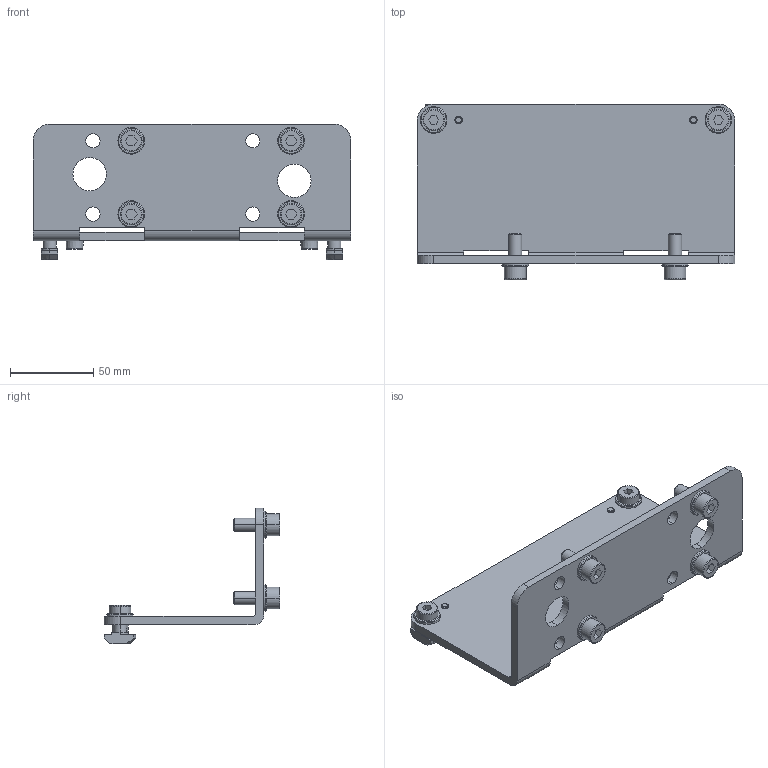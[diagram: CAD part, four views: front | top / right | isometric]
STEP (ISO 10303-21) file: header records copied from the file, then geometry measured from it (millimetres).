
FILE_DESCRIPTION (( 'STEP AP203' ), '1' );
FILE_NAME ('75000035-KonfigA_neu.STEP', '2022-01-27T11:27:55', ( '' ), ( '' ), 'SwSTEP 2.0', 'SolidWorks 2020', '' );
FILE_SCHEMA (( 'CONFIG_CONTROL_DESIGN' ));
Length unit declared in the file: millimetre
Products named in the file (1): 75000035-KonfigA_neu
Bounding box: 191 x 105.7 x 81.5 mm (x, y, z)
Volume: 156790.9 mm3; surface area: 68590.9 mm2
Topology: 1 solids, 1 shells, 230 faces, 556 edges, 354 vertices
Faces by surface type: plane 104, cylinder 74, cone 36, torus 16
Entity records: 6963 total; most frequent: CARTESIAN_POINT 1305, DIRECTION 1220, ORIENTED_EDGE 1112, EDGE_CURVE 556, AXIS2_PLACEMENT_3D 445, VERTEX_POINT 354, VECTOR 330, LINE 330
